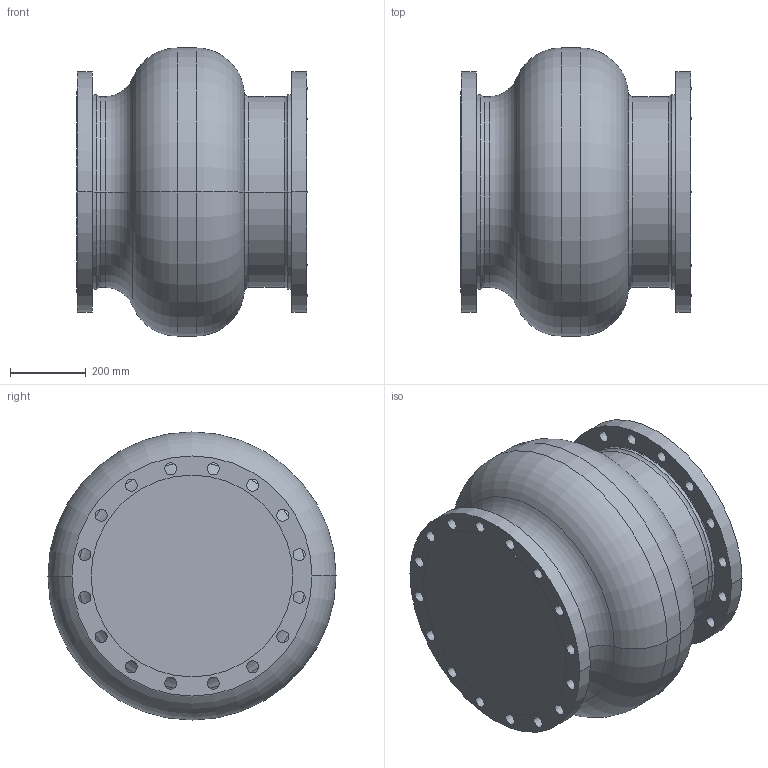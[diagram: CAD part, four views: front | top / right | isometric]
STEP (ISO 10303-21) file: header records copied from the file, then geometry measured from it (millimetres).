
FILE_DESCRIPTION (( 'STEP AP203' ), '1' );
FILE_NAME ('GLC 18 150.STEP', '2019-12-03T19:06:26', ( '' ), ( '' ), 'SwSTEP 2.0', 'SolidWorks 2017', '' );
FILE_SCHEMA (( 'CONFIG_CONTROL_DESIGN' ));
Length unit declared in the file: inch
Products named in the file (1): GLC 18 150
Bounding box: 609.09 x 762 x 762 mm (x, y, z)
Volume: 193986654.9 mm3; surface area: 2371969.3 mm2
Topology: 1 solids, 1 shells, 149 faces, 360 edges, 232 vertices
Faces by surface type: cylinder 80, sphere 32, plane 21, torus 16
Entity records: 4693 total; most frequent: DIRECTION 924, CARTESIAN_POINT 742, ORIENTED_EDGE 720, AXIS2_PLACEMENT_3D 414, EDGE_CURVE 360, CIRCLE 264, EDGE_LOOP 232, VERTEX_POINT 232
